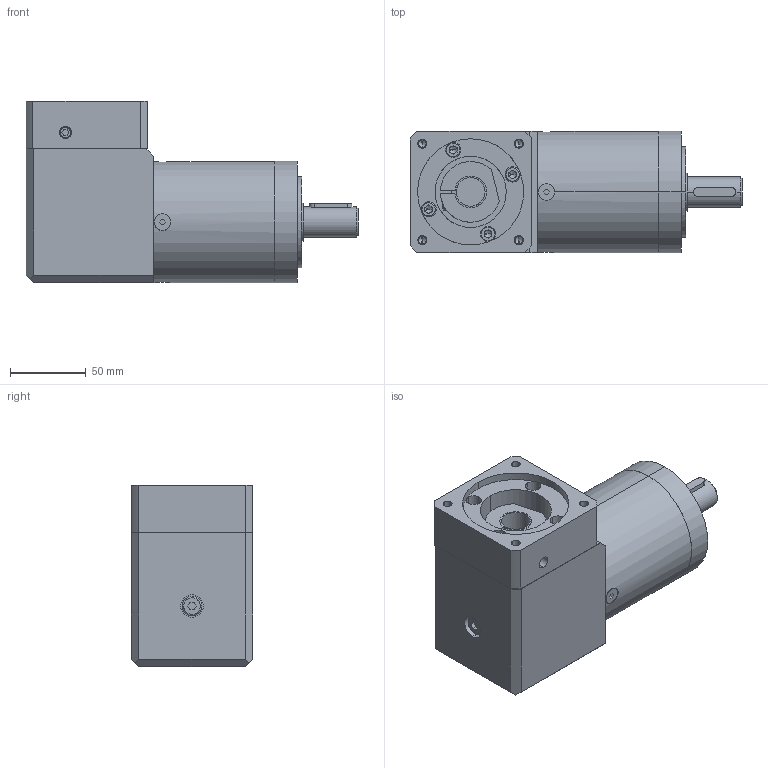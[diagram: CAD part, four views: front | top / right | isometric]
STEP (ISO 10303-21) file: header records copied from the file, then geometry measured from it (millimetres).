
FILE_DESCRIPTION (( 'STEP AP214' ), '1' );
FILE_NAME ('GBPNR-0803-CS-XXX-BLK32-748.STEP', '2015-05-15T15:42:20', ( '' ), ( '' ), 'SwSTEP 2.0', 'SolidWorks 2015', '' );
FILE_SCHEMA (( 'AUTOMOTIVE_DESIGN' ));
Length unit declared in the file: inch
Products named in the file (4): socket head cap screw_am_B18.3.1M - 6 x 1.0 x 16 Hex SHCS -- 16SHX; BLK32-748 adaptor plate for GBPNR-080X series; WPLE80, 3 Stage, mb_3004; GBPNR-0803-CS-XXX-BLK32-748
Assembly tree (6 placements, depth 2):
  GBPNR-0803-CS-XXX-BLK32-748
    WPLE80, 3 Stage, mb_3004
    BLK32-748 adaptor plate for GBPNR-080X series
    socket head cap screw_am_B18.3.1M - 6 x 1.0 x 16 Hex SHCS -- 16SHX  x4
Bounding box: 219 x 80 x 119.7 mm (x, y, z)
Volume: 117924.8 mm3; surface area: 110426.1 mm2
Topology: 5 solids, 15 shells, 726 faces, 1819 edges, 1136 vertices
Faces by surface type: cone 278, cylinder 263, plane 171, torus 8, bspline 6
Entity records: 13473 total; most frequent: CARTESIAN_POINT 2665, DIRECTION 2084, ORIENTED_EDGE 1790, EDGE_CURVE 913, AXIS2_PLACEMENT_3D 817, VERTEX_POINT 587, LINE 450, VECTOR 450
